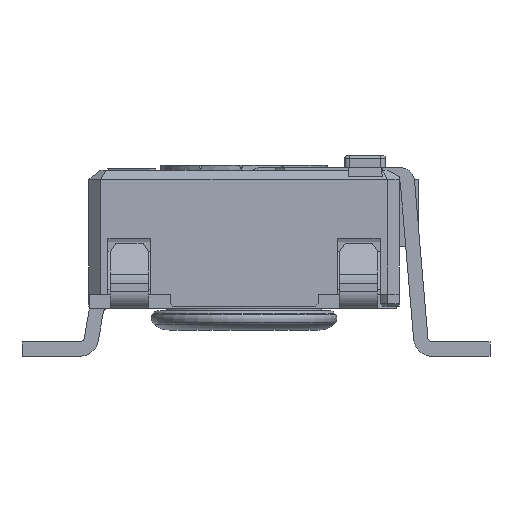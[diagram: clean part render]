
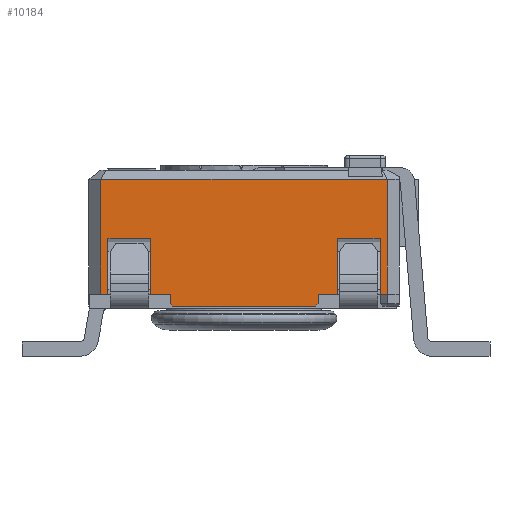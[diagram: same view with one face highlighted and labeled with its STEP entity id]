
A CAD part, left-side view. The second image highlights one B-rep face of the part: STEP entity #10184.
In plain terms, the highlighted planar face has unit normal (-1, 0, 0).
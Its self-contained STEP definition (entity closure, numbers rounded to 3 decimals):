
#1086=FACE_OUTER_BOUND('',#1616,.T.);
#1616=EDGE_LOOP('',(#8890,#8891,#8892,#8893,#8894,#8895,#8896,#8897,#8898,
#8899,#8900,#8901,#8902,#8903,#8904,#8905,#8906,#8907));
#2226=LINE('',#15408,#3376);
#2345=LINE('',#15671,#3495);
#2351=LINE('',#15684,#3501);
#2357=LINE('',#15695,#3507);
#2363=LINE('',#15706,#3513);
#2368=LINE('',#15716,#3518);
#2371=LINE('',#15722,#3521);
#2403=LINE('',#15784,#3553);
#2427=LINE('',#15839,#3577);
#2439=LINE('',#15859,#3589);
#2441=LINE('',#15864,#3591);
#2450=LINE('',#15883,#3600);
#2452=LINE('',#15886,#3602);
#2472=LINE('',#15927,#3622);
#2652=LINE('',#16382,#3802);
#2665=LINE('',#16406,#3815);
#2666=LINE('',#16408,#3816);
#2667=LINE('',#16410,#3817);
#3376=VECTOR('',#12428,10.);
#3495=VECTOR('',#12613,10.);
#3501=VECTOR('',#12621,10.);
#3507=VECTOR('',#12627,10.);
#3513=VECTOR('',#12635,10.);
#3518=VECTOR('',#12642,10.);
#3521=VECTOR('',#12647,10.);
#3553=VECTOR('',#12689,10.);
#3577=VECTOR('',#12741,10.);
#3589=VECTOR('',#12761,10.);
#3591=VECTOR('',#12765,10.);
#3600=VECTOR('',#12786,10.);
#3602=VECTOR('',#12790,10.);
#3622=VECTOR('',#12824,10.);
#3802=VECTOR('',#13254,10.);
#3815=VECTOR('',#13275,10.);
#3816=VECTOR('',#13278,10.);
#3817=VECTOR('',#13281,10.);
#4495=VERTEX_POINT('',#15405);
#4496=VERTEX_POINT('',#15407);
#4606=VERTEX_POINT('',#15668);
#4607=VERTEX_POINT('',#15670);
#4611=VERTEX_POINT('',#15680);
#4613=VERTEX_POINT('',#15683);
#4618=VERTEX_POINT('',#15693);
#4621=VERTEX_POINT('',#15703);
#4625=VERTEX_POINT('',#15713);
#4628=VERTEX_POINT('',#15720);
#4651=VERTEX_POINT('',#15771);
#4653=VERTEX_POINT('',#15783);
#4670=VERTEX_POINT('',#15835);
#4675=VERTEX_POINT('',#15861);
#4680=VERTEX_POINT('',#15882);
#4816=VERTEX_POINT('',#16379);
#4817=VERTEX_POINT('',#16381);
#4824=VERTEX_POINT('',#16404);
#5664=EDGE_CURVE('',#4496,#4495,#2226,.T.);
#5799=EDGE_CURVE('',#4607,#4606,#2345,.T.);
#5805=EDGE_CURVE('',#4613,#4611,#2351,.T.);
#5811=EDGE_CURVE('',#4606,#4618,#2357,.T.);
#5817=EDGE_CURVE('',#4611,#4621,#2363,.T.);
#5822=EDGE_CURVE('',#4621,#4625,#2368,.T.);
#5825=EDGE_CURVE('',#4625,#4628,#2371,.T.);
#5857=EDGE_CURVE('',#4653,#4607,#2403,.T.);
#5887=EDGE_CURVE('',#4495,#4653,#2427,.T.);
#5899=EDGE_CURVE('',#4496,#4670,#2439,.T.);
#5901=EDGE_CURVE('',#4618,#4675,#2441,.T.);
#5910=EDGE_CURVE('',#4680,#4651,#2450,.T.);
#5912=EDGE_CURVE('',#4670,#4651,#2452,.T.);
#5933=EDGE_CURVE('',#4628,#4680,#2472,.T.);
#6156=EDGE_CURVE('',#4816,#4817,#2652,.T.);
#6169=EDGE_CURVE('',#4824,#4675,#2665,.T.);
#6170=EDGE_CURVE('',#4824,#4817,#2666,.T.);
#6171=EDGE_CURVE('',#4816,#4613,#2667,.T.);
#8890=ORIENTED_EDGE('',*,*,#6169,.F.);
#8891=ORIENTED_EDGE('',*,*,#6170,.T.);
#8892=ORIENTED_EDGE('',*,*,#6156,.F.);
#8893=ORIENTED_EDGE('',*,*,#6171,.T.);
#8894=ORIENTED_EDGE('',*,*,#5805,.T.);
#8895=ORIENTED_EDGE('',*,*,#5817,.T.);
#8896=ORIENTED_EDGE('',*,*,#5822,.T.);
#8897=ORIENTED_EDGE('',*,*,#5825,.T.);
#8898=ORIENTED_EDGE('',*,*,#5933,.T.);
#8899=ORIENTED_EDGE('',*,*,#5910,.T.);
#8900=ORIENTED_EDGE('',*,*,#5912,.F.);
#8901=ORIENTED_EDGE('',*,*,#5899,.F.);
#8902=ORIENTED_EDGE('',*,*,#5664,.T.);
#8903=ORIENTED_EDGE('',*,*,#5887,.T.);
#8904=ORIENTED_EDGE('',*,*,#5857,.T.);
#8905=ORIENTED_EDGE('',*,*,#5799,.T.);
#8906=ORIENTED_EDGE('',*,*,#5811,.T.);
#8907=ORIENTED_EDGE('',*,*,#5901,.T.);
#9676=PLANE('',#10959);
#10184=ADVANCED_FACE('',(#1086),#9676,.T.);
#10959=AXIS2_PLACEMENT_3D('',#16591,#13483,#13484);
#12428=DIRECTION('',(0.,-1.,0.));
#12613=DIRECTION('',(0.,0.,-1.));
#12621=DIRECTION('',(0.,-1.,0.));
#12627=DIRECTION('',(0.,-1.,0.));
#12635=DIRECTION('',(0.,0.,1.));
#12642=DIRECTION('',(0.,-1.,0.));
#12647=DIRECTION('',(0.,0.,-1.));
#12689=DIRECTION('',(0.,-1.,0.));
#12741=DIRECTION('',(0.,0.,1.));
#12761=DIRECTION('',(0.,0.,1.));
#12765=DIRECTION('',(0.,0.,-1.));
#12786=DIRECTION('',(0.,0.,1.));
#12790=DIRECTION('',(0.,-1.,0.));
#12824=DIRECTION('',(0.,-1.,0.));
#13254=DIRECTION('',(0.,0.707,-0.707));
#13275=DIRECTION('',(0.,0.707,0.707));
#13278=DIRECTION('',(0.,-1.,0.));
#13281=DIRECTION('',(0.,0.,1.));
#13483=DIRECTION('center_axis',(-1.,0.,0.));
#13484=DIRECTION('ref_axis',(0.,0.,1.));
#15405=CARTESIAN_POINT('',(-14.26,-8.882,0.25));
#15407=CARTESIAN_POINT('',(-14.26,-8.732,0.25));
#15408=CARTESIAN_POINT('',(-14.26,-13.244,0.25));
#15668=CARTESIAN_POINT('',(-14.26,-9.782,0.25));
#15670=CARTESIAN_POINT('',(-14.26,-9.782,1.425));
#15671=CARTESIAN_POINT('',(-14.26,-9.782,0.387));
#15680=CARTESIAN_POINT('',(-14.26,-13.682,0.25));
#15683=CARTESIAN_POINT('',(-14.26,-13.282,0.25));
#15684=CARTESIAN_POINT('',(-14.26,-13.244,0.25));
#15693=CARTESIAN_POINT('',(-14.26,-10.182,0.25));
#15695=CARTESIAN_POINT('',(-14.26,-13.244,0.25));
#15703=CARTESIAN_POINT('',(-14.26,-13.682,1.425));
#15706=CARTESIAN_POINT('',(-14.26,-13.682,0.387));
#15713=CARTESIAN_POINT('',(-14.26,-14.582,1.425));
#15716=CARTESIAN_POINT('',(-14.26,-14.657,1.425));
#15720=CARTESIAN_POINT('',(-14.26,-14.582,0.25));
#15722=CARTESIAN_POINT('',(-14.26,-14.582,0.387));
#15771=CARTESIAN_POINT('',(-14.26,-14.732,2.655));
#15783=CARTESIAN_POINT('',(-14.26,-8.882,1.425));
#15784=CARTESIAN_POINT('',(-14.26,-11.807,1.425));
#15835=CARTESIAN_POINT('',(-14.26,-8.732,2.655));
#15839=CARTESIAN_POINT('',(-14.26,-8.882,0.387));
#15859=CARTESIAN_POINT('',(-14.26,-8.732,0.));
#15861=CARTESIAN_POINT('',(-14.26,-10.182,0.05));
#15864=CARTESIAN_POINT('',(-14.26,-10.182,0.));
#15882=CARTESIAN_POINT('',(-14.26,-14.732,0.25));
#15883=CARTESIAN_POINT('',(-14.26,-14.732,0.));
#15886=CARTESIAN_POINT('',(-14.26,-13.232,2.655));
#15927=CARTESIAN_POINT('',(-14.26,-13.244,0.25));
#16379=CARTESIAN_POINT('',(-14.26,-13.282,0.05));
#16381=CARTESIAN_POINT('',(-14.26,-13.232,0.));
#16382=CARTESIAN_POINT('',(-14.26,-13.619,0.388));
#16404=CARTESIAN_POINT('',(-14.26,-10.232,0.));
#16406=CARTESIAN_POINT('',(-14.26,-11.344,-1.113));
#16408=CARTESIAN_POINT('',(-14.26,-8.732,0.));
#16410=CARTESIAN_POINT('',(-14.26,-13.282,0.));
#16591=CARTESIAN_POINT('Origin',(-14.26,-14.732,0.));
